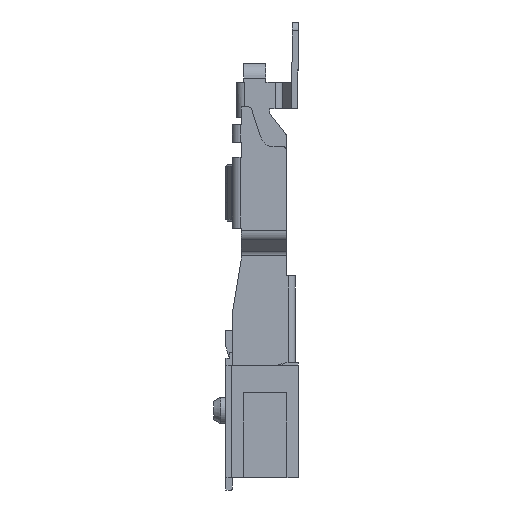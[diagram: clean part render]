
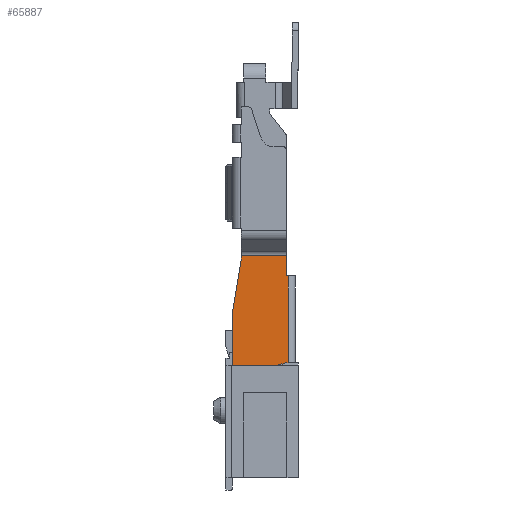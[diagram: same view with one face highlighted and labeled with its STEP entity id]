
A CAD part, left-side view. The second image highlights one B-rep face of the part: STEP entity #65887.
In plain terms, the highlighted planar face has unit normal (-1, 0, 0).
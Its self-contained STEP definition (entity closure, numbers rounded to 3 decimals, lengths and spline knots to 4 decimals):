
#1806=DIRECTION('',(0.,0.958,-0.287));
#1807=VECTOR('',#1806,0.522);
#1808=CARTESIAN_POINT('',(-34.75,-1.365,-1.));
#1809=LINE('',#1808,#1807);
#1810=DIRECTION('',(0.,1.,0.));
#1811=VECTOR('',#1810,2.55);
#1812=CARTESIAN_POINT('',(-34.75,-0.865,-1.15));
#1813=LINE('',#1812,#1811);
#1814=DIRECTION('',(0.,0.164,-0.986));
#1815=VECTOR('',#1814,3.0414);
#1816=CARTESIAN_POINT('',(-34.75,1.185,4.85));
#1817=LINE('',#1816,#1815);
#1818=DIRECTION('',(0.,0.,-1.));
#1819=VECTOR('',#1818,0.2);
#1820=CARTESIAN_POINT('',(-34.75,1.185,5.05));
#1821=LINE('',#1820,#1819);
#1822=DIRECTION('',(0.,1.,0.));
#1823=VECTOR('',#1822,0.1);
#1824=CARTESIAN_POINT('',(-34.75,-1.465,-1.));
#1825=LINE('',#1824,#1823);
#1854=DIRECTION('',(0.,0.,1.));
#1855=VECTOR('',#1854,3.);
#1856=CARTESIAN_POINT('',(-34.75,1.685,-1.15));
#1857=LINE('',#1856,#1855);
#45351=DIRECTION('',(0.,0.,1.));
#45352=VECTOR('',#45351,4.9);
#45353=CARTESIAN_POINT('',(-34.75,-1.465,-1.));
#45354=LINE('',#45353,#45352);
#45389=DIRECTION('',(0.,-1.,0.));
#45390=VECTOR('',#45389,0.1);
#45391=CARTESIAN_POINT('',(-34.75,-1.365,3.9));
#45392=LINE('',#45391,#45390);
#45493=DIRECTION('',(0.,0.,1.));
#45494=VECTOR('',#45493,1.15);
#45495=CARTESIAN_POINT('',(-34.75,-1.365,3.9));
#45496=LINE('',#45495,#45494);
#46888=DIRECTION('',(0.,1.,0.));
#46889=VECTOR('',#46888,2.55);
#46890=CARTESIAN_POINT('',(-34.75,-1.365,5.05));
#46891=LINE('',#46890,#46889);
#48654=CARTESIAN_POINT('',(-34.75,-1.365,5.05));
#48656=VERTEX_POINT('',#48654);
#48670=CARTESIAN_POINT('',(-34.75,1.685,-1.15));
#48672=VERTEX_POINT('',#48670);
#48732=CARTESIAN_POINT('',(-34.75,1.685,1.85));
#48734=VERTEX_POINT('',#48732);
#48736=CARTESIAN_POINT('',(-34.75,1.185,5.05));
#48737=CARTESIAN_POINT('',(-34.75,1.185,4.85));
#48738=VERTEX_POINT('',#48736);
#48739=VERTEX_POINT('',#48737);
#49519=CARTESIAN_POINT('',(-34.75,-1.465,3.9));
#49521=VERTEX_POINT('',#49519);
#49532=CARTESIAN_POINT('',(-34.75,-1.365,3.9));
#49534=VERTEX_POINT('',#49532);
#49561=CARTESIAN_POINT('',(-34.75,-1.365,-1.));
#49562=CARTESIAN_POINT('',(-34.75,-0.865,-1.15));
#49563=VERTEX_POINT('',#49561);
#49564=VERTEX_POINT('',#49562);
#49565=CARTESIAN_POINT('',(-34.75,-1.465,-1.));
#49566=VERTEX_POINT('',#49565);
#65862=CARTESIAN_POINT('',(-34.75,-1.365,-1.15));
#65863=DIRECTION('',(-1.,0.,0.));
#65864=DIRECTION('',(0.,0.,1.));
#65865=AXIS2_PLACEMENT_3D('',#65862,#65863,#65864);
#65866=PLANE('',#65865);
#65867=ORIENTED_EDGE('',*,*,#65836,.T.);
#65868=ORIENTED_EDGE('',*,*,#65722,.T.);
#65870=ORIENTED_EDGE('',*,*,#65869,.T.);
#65872=ORIENTED_EDGE('',*,*,#65871,.F.);
#65874=ORIENTED_EDGE('',*,*,#65873,.F.);
#65876=ORIENTED_EDGE('',*,*,#65875,.F.);
#65878=ORIENTED_EDGE('',*,*,#65877,.F.);
#65880=ORIENTED_EDGE('',*,*,#65879,.T.);
#65882=ORIENTED_EDGE('',*,*,#65881,.F.);
#65884=ORIENTED_EDGE('',*,*,#65883,.T.);
#65885=EDGE_LOOP('',(#65867,#65868,#65870,#65872,#65874,#65876,#65878,#65880,
#65882,#65884));
#65886=FACE_OUTER_BOUND('',#65885,.F.);
#65887=ADVANCED_FACE('',(#65886),#65866,.T.);
#65722=EDGE_CURVE('',#49564,#48672,#1813,.T.);
#65836=EDGE_CURVE('',#49563,#49564,#1809,.T.);
#65869=EDGE_CURVE('',#48672,#48734,#1857,.T.);
#65871=EDGE_CURVE('',#48739,#48734,#1817,.T.);
#65873=EDGE_CURVE('',#48738,#48739,#1821,.T.);
#65875=EDGE_CURVE('',#48656,#48738,#46891,.T.);
#65877=EDGE_CURVE('',#49534,#48656,#45496,.T.);
#65879=EDGE_CURVE('',#49534,#49521,#45392,.T.);
#65881=EDGE_CURVE('',#49566,#49521,#45354,.T.);
#65883=EDGE_CURVE('',#49566,#49563,#1825,.T.);
